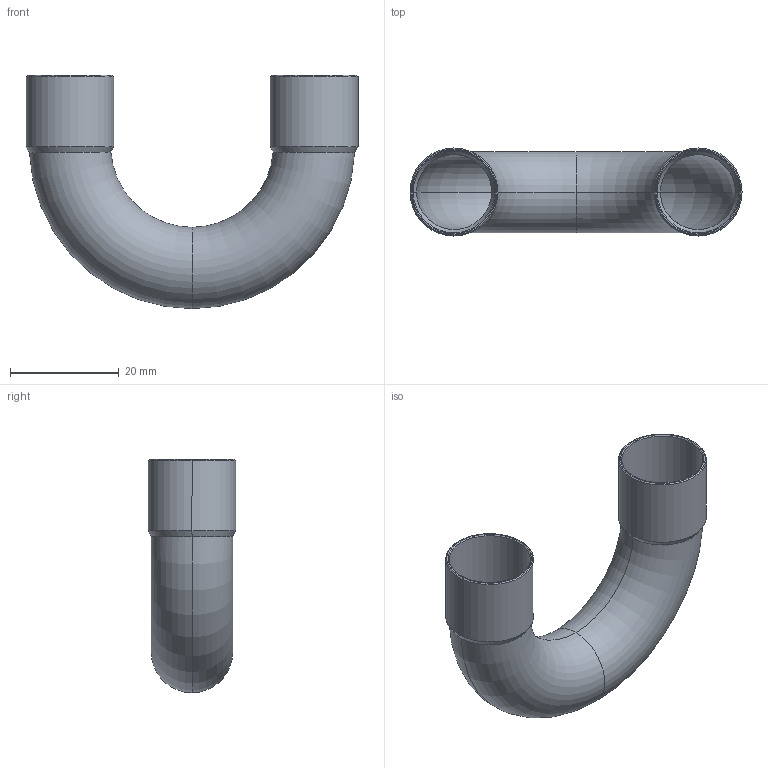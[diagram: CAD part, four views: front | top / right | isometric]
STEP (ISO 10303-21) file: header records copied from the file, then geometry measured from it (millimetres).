
FILE_DESCRIPTION((''),'2;1');
FILE_NAME('C:\sanha_work\5130\f\1506015.stp','2005-10-21T17:22:35',('Kris'),(''),'Autodesk Inventor 8','Autodesk Inventor 8','');
FILE_SCHEMA(('AUTOMOTIVE_DESIGN { 1 0 10303 214 1 1 1 1 }'));
Length unit declared in the file: millimetre
Products named in the file (1): 1506015
Bounding box: 61.2 x 16.2 x 43 mm (x, y, z)
Volume: 2691 mm3; surface area: 9018.7 mm2
Topology: 1 solids, 1 shells, 34 faces, 68 edges, 36 vertices
Faces by surface type: cone 12, bspline 9, torus 8, cylinder 4, plane 1
Entity records: 1131 total; most frequent: CARTESIAN_POINT 430, DIRECTION 148, ORIENTED_EDGE 136, EDGE_CURVE 68, AXIS2_PLACEMENT_3D 62, VERTEX_POINT 36, CIRCLE 36, EDGE_LOOP 36
